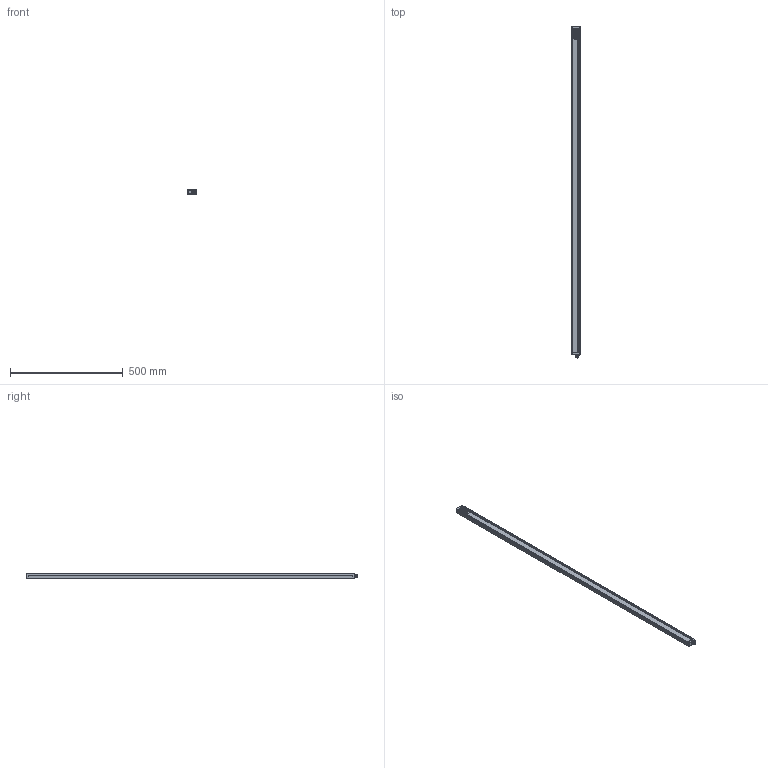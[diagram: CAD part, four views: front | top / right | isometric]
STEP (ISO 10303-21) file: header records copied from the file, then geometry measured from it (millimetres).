
FILE_DESCRIPTION(/* description */ (''),/* implementation_level */ '2;1');
FILE_NAME(/* name */ 'C:\Users\andre\SynologyDrive\Optoscan\Libreria Componenti\00 - Barriere\Polaris sorgente\Barriera Polaris RX\Polaris_1440_RX.stp',/* time_stamp */ '2021-06-04T11:53:47+02:00',/* author */ ('andre'),/* organization */ (''),/* preprocessor_version */ 'ST-DEVELOPER v18',/* originating_system */ 'Autodesk Inventor 2020',/* authorisation */ '');
FILE_SCHEMA (('AUTOMOTIVE_DESIGN { 1 0 10303 214 3 1 1 }'));
Length unit declared in the file: millimetre
Products named in the file (1): Polaris_1440_RX
Bounding box: 40.5 x 1473.3 x 20.75 mm (x, y, z)
Volume: 291628.6 mm3; surface area: 385179 mm2
Topology: 1 solids, 1 shells, 700 faces, 1926 edges, 1237 vertices
Faces by surface type: plane 319, cylinder 199, bspline 94, torus 70, sphere 10, cone 8
Full cylindrical faces by diameter (mm): 1 x8, 2.459 x4, 2.5 x4, 3 x4, 3.5 x4, 5.5 x4, 8 x1, 10.5 x2, 11.75 x9, 15.7 x1, 17.5 x1
Entity records: 28472 total; most frequent: CARTESIAN_POINT 10246, ORIENTED_EDGE 3826, DIRECTION 3447, EDGE_CURVE 1913, VERTEX_POINT 1237, AXIS2_PLACEMENT_3D 1211, LINE 1025, VECTOR 1025
